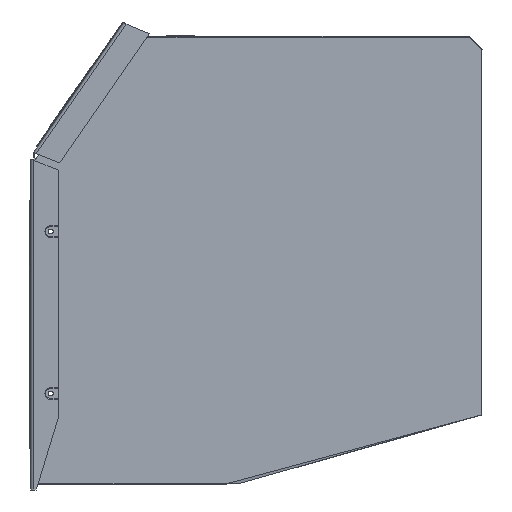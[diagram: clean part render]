
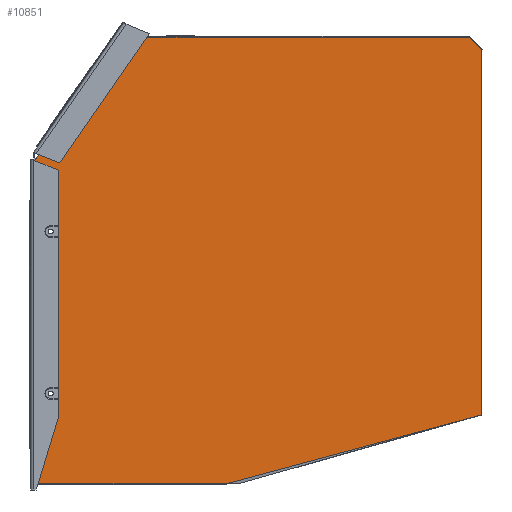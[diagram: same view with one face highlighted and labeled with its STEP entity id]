
A CAD part, left-side view. The second image highlights one B-rep face of the part: STEP entity #10851.
In plain terms, the highlighted planar face has unit normal (-1, 0, 0) as drawn and (0, 0, 1) by its records, which use the part's own axes.
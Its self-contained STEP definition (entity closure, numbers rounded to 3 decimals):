
#10542=CARTESIAN_POINT('',(178.79,207.48,0.0));
#10543=VERTEX_POINT('',#10542);
#10544=CARTESIAN_POINT('',(182.29,207.48,0.0));
#10545=DIRECTION('',(0.0,0.0,1.0));
#10546=DIRECTION('',(1.0,0.0,0.0));
#10547=AXIS2_PLACEMENT_3D('',#10544,#10545,#10546);
#10548=CIRCLE('',#10547,3.5);
#10549=EDGE_CURVE('',#10543,#10543,#10548,.T.);
#10570=CARTESIAN_POINT('',(413.79,207.48,0.0));
#10571=VERTEX_POINT('',#10570);
#10572=CARTESIAN_POINT('',(417.29,207.48,0.0));
#10573=DIRECTION('',(0.0,0.0,1.0));
#10574=DIRECTION('',(1.0,0.0,0.0));
#10575=AXIS2_PLACEMENT_3D('',#10572,#10573,#10574);
#10576=CIRCLE('',#10575,3.5);
#10577=EDGE_CURVE('',#10571,#10571,#10576,.T.);
#10608=CARTESIAN_POINT('',(519.29,232.48,0.0));
#10609=VERTEX_POINT('',#10608);
#10616=CARTESIAN_POINT('',(699.29,82.48,0.0));
#10617=VERTEX_POINT('',#10616);
#10618=CARTESIAN_POINT('',(519.29,232.48,0.0));
#10619=DIRECTION('',(0.768,-0.64,0.0));
#10620=VECTOR('',#10619,234.307);
#10621=LINE('',#10618,#10620);
#10622=EDGE_CURVE('',#10609,#10617,#10621,.T.);
#10647=CARTESIAN_POINT('',(699.29,-399.52,0.0));
#10648=VERTEX_POINT('',#10647);
#10649=CARTESIAN_POINT('',(699.29,82.48,0.0));
#10650=DIRECTION('',(0.0,-1.0,0.0));
#10651=VECTOR('',#10650,482.);
#10652=LINE('',#10649,#10651);
#10653=EDGE_CURVE('',#10617,#10648,#10652,.T.);
#10678=CARTESIAN_POINT('',(681.29,-417.52,0.0));
#10679=VERTEX_POINT('',#10678);
#10680=CARTESIAN_POINT('',(699.29,-399.52,0.0));
#10681=DIRECTION('',(-0.707,-0.707,0.0));
#10682=VECTOR('',#10681,25.456);
#10683=LINE('',#10680,#10682);
#10684=EDGE_CURVE('',#10648,#10679,#10683,.T.);
#10709=CARTESIAN_POINT('',(151.29,-417.52,0.0));
#10710=VERTEX_POINT('',#10709);
#10711=CARTESIAN_POINT('',(681.29,-417.52,0.0));
#10712=DIRECTION('',(-1.0,0.0,0.0));
#10713=VECTOR('',#10712,530.);
#10714=LINE('',#10711,#10713);
#10715=EDGE_CURVE('',#10679,#10710,#10714,.T.);
#10740=CARTESIAN_POINT('',(51.29,-47.52,0.0));
#10741=VERTEX_POINT('',#10740);
#10742=CARTESIAN_POINT('',(151.29,-417.52,0.0));
#10743=DIRECTION('',(-0.261,0.965,0.0));
#10744=VECTOR('',#10743,383.275);
#10745=LINE('',#10742,#10744);
#10746=EDGE_CURVE('',#10710,#10741,#10745,.T.);
#10771=CARTESIAN_POINT('',(51.29,232.48,0.0));
#10772=VERTEX_POINT('',#10771);
#10773=CARTESIAN_POINT('',(51.29,-47.52,0.0));
#10774=DIRECTION('',(0.0,1.0,0.0));
#10775=VECTOR('',#10774,280.);
#10776=LINE('',#10773,#10775);
#10777=EDGE_CURVE('',#10741,#10772,#10776,.T.);
#10800=CARTESIAN_POINT('',(51.29,232.48,0.0));
#10801=DIRECTION('',(1.0,0.0,0.0));
#10802=VECTOR('',#10801,468.);
#10803=LINE('',#10800,#10802);
#10804=EDGE_CURVE('',#10772,#10609,#10803,.T.);
#10831=CARTESIAN_POINT('',(376.492,-93.888,0.0));
#10832=DIRECTION('',(0.0,0.0,1.0));
#10833=DIRECTION('',(1.0,0.0,0.0));
#10834=AXIS2_PLACEMENT_3D('',#10831,#10832,#10833);
#10835=PLANE('',#10834);
#10836=ORIENTED_EDGE('',*,*,#10804,.F.);
#10837=ORIENTED_EDGE('',*,*,#10777,.F.);
#10838=ORIENTED_EDGE('',*,*,#10746,.F.);
#10839=ORIENTED_EDGE('',*,*,#10715,.F.);
#10840=ORIENTED_EDGE('',*,*,#10684,.F.);
#10841=ORIENTED_EDGE('',*,*,#10653,.F.);
#10842=ORIENTED_EDGE('',*,*,#10622,.F.);
#10843=EDGE_LOOP('',(#10836,#10837,#10838,#10839,#10840,#10841,#10842));
#10844=FACE_OUTER_BOUND('',#10843,.T.);
#10845=ORIENTED_EDGE('',*,*,#10549,.F.);
#10846=EDGE_LOOP('',(#10845));
#10847=FACE_BOUND('',#10846,.T.);
#10848=ORIENTED_EDGE('',*,*,#10577,.F.);
#10849=EDGE_LOOP('',(#10848));
#10850=FACE_BOUND('',#10849,.T.);
#10851=ADVANCED_FACE('',(#10844,#10847,#10850),#10835,.T.);
